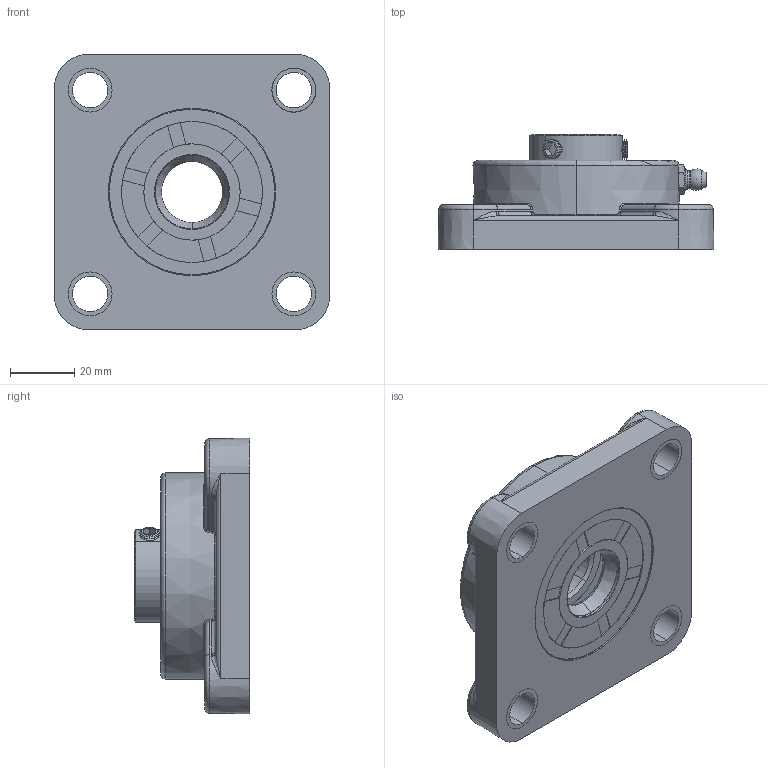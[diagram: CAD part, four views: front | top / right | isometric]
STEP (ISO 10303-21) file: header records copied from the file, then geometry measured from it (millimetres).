
FILE_DESCRIPTION (( 'STEP AP214' ), '1' );
FILE_NAME ('312120.STEP', '2024-01-25T11:02:56', ( '' ), ( '' ), 'SwSTEP 2.0', 'SolidWorks 2022', '' );
FILE_SCHEMA (( 'AUTOMOTIVE_DESIGN' ));
Length unit declared in the file: millimetre
Products named in the file (12): CASQUILLOS RODAMIENTOS_ROD20; tuerca; MUELLE-RETEN-RODAM-Ø20; Reten-Rodam-Ø20; ENGRASADOR RODAMIENTOS; Rodam-20-SB204; ESPARRAGOM6X6; 312120; BASE-UCFØ20
Assembly tree (12 placements, depth 2):
  312120
    BASE-UCFØ20
    Rodam-20-SB204
    ENGRASADOR RODAMIENTOS
    tuerca
    ESPARRAGOM6X6  x2
    CASQUILLOS RODAMIENTOS_ROD20
    CASQUILLOS RODAMIENTOS_ROD20
    CASQUILLOS RODAMIENTOS_ROD20
    CASQUILLOS RODAMIENTOS_ROD20
    Reten-Rodam-Ø20
    MUELLE-RETEN-RODAM-Ø20
Bounding box: 86 x 36 x 86 mm (x, y, z)
Volume: 87876 mm3; surface area: 44758.1 mm2
Topology: 12 solids, 14 shells, 5366 faces, 14587 edges, 9269 vertices
Faces by surface type: bspline 3143, plane 1197, cylinder 724, cone 223, torus 69, sphere 10
Entity records: 214825 total; most frequent: CARTESIAN_POINT 111131, ORIENTED_EDGE 28870, EDGE_CURVE 14435, B_SPLINE_CURVE_WITH_KNOTS 9733, DIRECTION 9239, VERTEX_POINT 9191, EDGE_LOOP 5378, ADVANCED_FACE 5306
